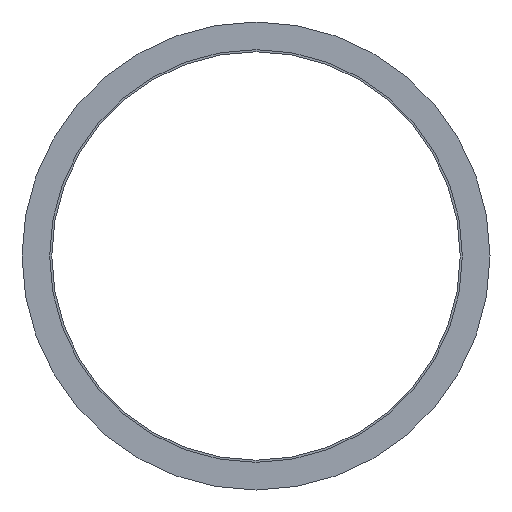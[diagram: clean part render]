
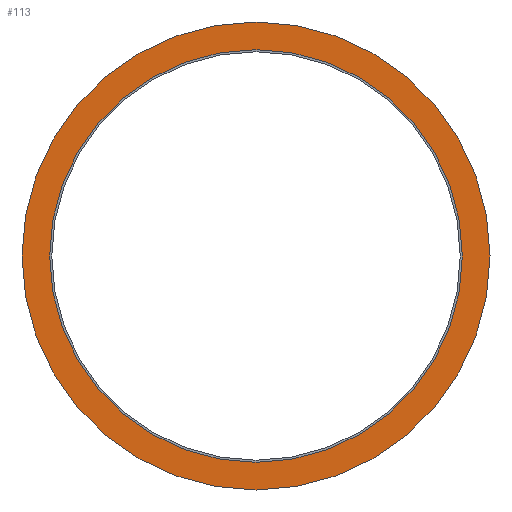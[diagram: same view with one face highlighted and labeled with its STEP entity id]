
A CAD part, left-side view. The second image highlights one B-rep face of the part: STEP entity #113.
In plain terms, the highlighted planar face has unit normal (-1, 0, 0).
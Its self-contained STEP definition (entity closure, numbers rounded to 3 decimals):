
#3 = DIRECTION ( 'NONE',  ( 0., 0., -1. ) ) ;
#5 = CARTESIAN_POINT ( 'NONE',  ( -5.358, -0.125, 0. ) ) ;
#11 = EDGE_CURVE ( 'NONE', #62, #91, #346, .T. ) ;
#13 = AXIS2_PLACEMENT_3D ( 'NONE', #126, #16, #3 ) ;
#14 = VERTEX_POINT ( 'NONE', #294 ) ;
#16 = DIRECTION ( 'NONE',  ( 1., 0., 0. ) ) ;
#17 = CARTESIAN_POINT ( 'NONE',  ( -5.358, -0.125, 24.25 ) ) ;
#25 = VERTEX_POINT ( 'NONE', #390 ) ;
#34 = DIRECTION ( 'NONE',  ( -1., 0., 0. ) ) ;
#47 = CARTESIAN_POINT ( 'NONE',  ( -5.358, -0.125, 0. ) ) ;
#60 = DIRECTION ( 'NONE',  ( 0., 0., -1. ) ) ;
#62 = VERTEX_POINT ( 'NONE', #17 ) ;
#74 = CIRCLE ( 'NONE', #153, 27.5 ) ;
#87 = FACE_BOUND ( 'NONE', #262, .T. ) ;
#91 = VERTEX_POINT ( 'NONE', #275 ) ;
#93 = DIRECTION ( 'NONE',  ( 0., 0., 1. ) ) ;
#113 = ADVANCED_FACE ( 'NONE', ( #87, #296 ), #204, .T. ) ;
#115 = CARTESIAN_POINT ( 'NONE',  ( -5.358, -0.125, 0. ) ) ;
#126 = CARTESIAN_POINT ( 'NONE',  ( -5.358, -0.125, 0. ) ) ;
#127 = EDGE_CURVE ( 'NONE', #25, #14, #74, .T. ) ;
#153 = AXIS2_PLACEMENT_3D ( 'NONE', #115, #319, #60 ) ;
#167 = DIRECTION ( 'NONE',  ( 1., 0., 0. ) ) ;
#170 = AXIS2_PLACEMENT_3D ( 'NONE', #47, #167, #350 ) ;
#177 = AXIS2_PLACEMENT_3D ( 'NONE', #342, #34, #93 ) ;
#197 = DIRECTION ( 'NONE',  ( 1., 0., 0. ) ) ;
#204 = PLANE ( 'NONE',  #177 ) ;
#220 = ORIENTED_EDGE ( 'NONE', *, *, #404, .F. ) ;
#222 = ORIENTED_EDGE ( 'NONE', *, *, #11, .T. ) ;
#262 = EDGE_LOOP ( 'NONE', ( #387, #222 ) ) ;
#275 = CARTESIAN_POINT ( 'NONE',  ( -5.358, -0.125, -24.25 ) ) ;
#291 = CIRCLE ( 'NONE', #13, 24.25 ) ;
#293 = ORIENTED_EDGE ( 'NONE', *, *, #127, .F. ) ;
#294 = CARTESIAN_POINT ( 'NONE',  ( -5.358, -0.125, -27.5 ) ) ;
#296 = FACE_OUTER_BOUND ( 'NONE', #302, .T. ) ;
#302 = EDGE_LOOP ( 'NONE', ( #220, #293 ) ) ;
#319 = DIRECTION ( 'NONE',  ( 1., 0., 0. ) ) ;
#332 = EDGE_CURVE ( 'NONE', #91, #62, #291, .T. ) ;
#339 = AXIS2_PLACEMENT_3D ( 'NONE', #5, #197, #384 ) ;
#342 = CARTESIAN_POINT ( 'NONE',  ( -5.358, -0.125, 0. ) ) ;
#346 = CIRCLE ( 'NONE', #339, 24.25 ) ;
#350 = DIRECTION ( 'NONE',  ( 0., 0., -1. ) ) ;
#384 = DIRECTION ( 'NONE',  ( 0., 0., -1. ) ) ;
#387 = ORIENTED_EDGE ( 'NONE', *, *, #332, .T. ) ;
#390 = CARTESIAN_POINT ( 'NONE',  ( -5.358, -0.125, 27.5 ) ) ;
#403 = CIRCLE ( 'NONE', #170, 27.5 ) ;
#404 = EDGE_CURVE ( 'NONE', #14, #25, #403, .T. ) ;
